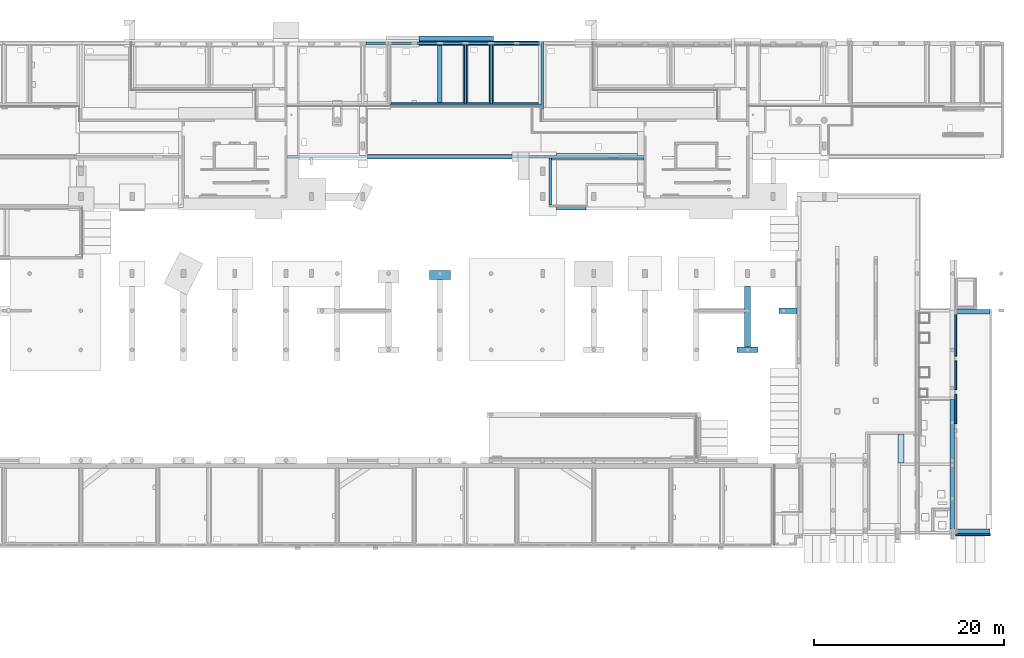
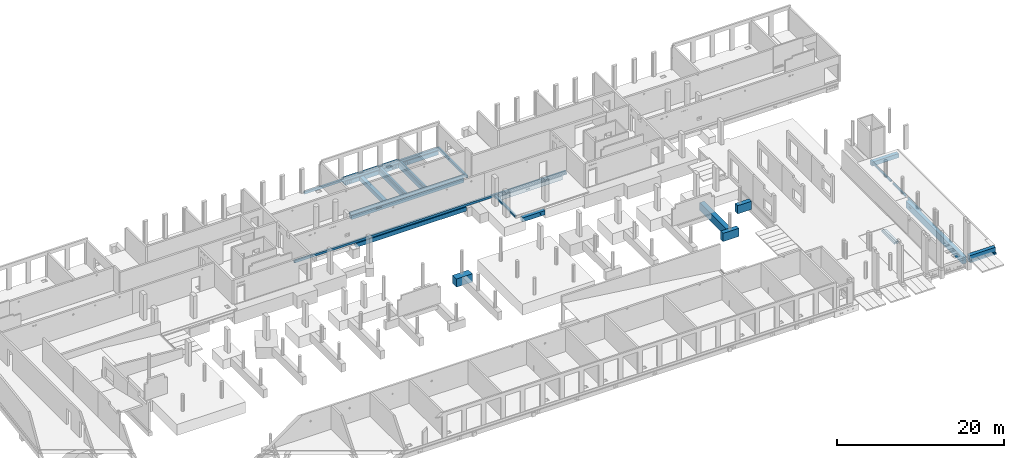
# One storey, part 6 of 60: 29 footings.
"""IFC2X3 building model written with IfcOpenShell, lengths in millimetres."""

import ifcopenshell
import ifcopenshell.guid

model = None  # the IFC model being written
_history = None  # IfcOwnerHistory: only IFC2X3 demands one
_inside = {}  # id of a spatial element -> (the spatial element, [elements in it])
_under = {}  # id of a project, library or spatial element -> (it, [spatial elements below it])
_declared = {}  # id of a project -> (the project, [libraries it declares])
_typed = {}  # id of a type object -> (the type object, [elements of that type])
_made_of = {}  # id of a material, layer set ... -> (it, [elements and type objects made of it])


def new_model(schema):
    """Start an empty IFC model of exactly this schema.

    Asked for "IFC4X3", IfcOpenShell would pick the latest addendum, in which some entities
    have other attributes; the version numbers below select the first issue.
    IFC2X3 requires an IfcOwnerHistory on every rooted entity: one is made here for all.
    """
    global model, _history
    if schema == "IFC4X3":
        model = ifcopenshell.file(schema_version=(4, 3, 0, 0))
    else:
        model = ifcopenshell.file(schema=schema)
    _inside.clear()
    _under.clear()
    _declared.clear()
    _typed.clear()
    _made_of.clear()
    _history = None
    if model.schema == "IFC2X3":
        org = make("IfcOrganization", Name="unknown")
        user = make(
            "IfcPersonAndOrganization",
            ThePerson=make("IfcPerson", FamilyName="unknown"),
            TheOrganization=org,
        )
        app = make(
            "IfcApplication",
            ApplicationDeveloper=org,
            Version="unknown",
            ApplicationFullName="unknown",
            ApplicationIdentifier="unknown",
        )
        _history = make(
            "IfcOwnerHistory",
            OwningUser=user,
            OwningApplication=app,
            ChangeAction="ADDED",
            CreationDate=0,
        )
    return model


def make(cls, **values):
    """One entity of the class cls with the attributes given. An attribute that is None is left unset."""
    return model.create_entity(
        cls, **{name: value for name, value in values.items() if value is not None}
    )


def entity(cls, *values):
    """Any entity or typed value of the class cls, its attributes in the order of the schema. None: left unset."""
    e = model.create_entity(cls)
    for i, value in enumerate(values):
        if value is not None:
            e[i] = value
    return e


def rooted(cls, **values):
    """An entity with a GlobalId (a new one), such as an element, a storey or a relation."""
    return make(cls, GlobalId=ifcopenshell.guid.new(), OwnerHistory=_history, **values)


def si_unit(unit_type, name, prefix=None):
    """IfcSIUnit, for example si_unit("LENGTHUNIT", "METRE", prefix="MILLI")."""
    return make("IfcSIUnit", UnitType=unit_type, Prefix=prefix, Name=name)


def converted_unit(unit_type, name, factor, base, dimensions=None, offset=None):
    """IfcConversionBasedUnit, such as the inch: factor (a typed value) times the base unit."""
    return make(
        "IfcConversionBasedUnit"
        if offset is None
        else "IfcConversionBasedUnitWithOffset",
        ConversionOffset=offset,
        Dimensions=None
        if dimensions is None
        else entity("IfcDimensionalExponents", *dimensions),
        UnitType=unit_type,
        Name=name,
        ConversionFactor=make(
            "IfcMeasureWithUnit", ValueComponent=factor, UnitComponent=base
        ),
    )


def derived_unit(unit_type, elements):
    """IfcDerivedUnit: a product of units, each with its exponent."""
    return make(
        "IfcDerivedUnit",
        Elements=[
            make("IfcDerivedUnitElement", Unit=unit, Exponent=power)
            for unit, power in elements
        ],
        UnitType=unit_type,
    )


def assignment(units):
    """IfcUnitAssignment: the units of a project."""
    return None if units is None else make("IfcUnitAssignment", Units=units)


def point(xyz):
    """IfcCartesianPoint."""
    return None if xyz is None else make("IfcCartesianPoint", Coordinates=xyz)


def direction(xyz):
    """IfcDirection."""
    return None if xyz is None else make("IfcDirection", DirectionRatios=xyz)


def frame(location, z_axis=None, x_axis=None):
    """IfcAxis2Placement3D, a coordinate frame: its origin and axes. An axis left out is left unset."""
    return make(
        "IfcAxis2Placement3D",
        Location=point(location),
        Axis=direction(z_axis),
        RefDirection=direction(x_axis),
    )


def frame_2d(location, x_axis=None):
    """IfcAxis2Placement2D, a coordinate frame in the plane: its origin and x axis."""
    return make(
        "IfcAxis2Placement2D", Location=point(location), RefDirection=direction(x_axis)
    )


def origin():
    """The frame at (0, 0, 0) with its axes left unset."""
    return frame((0.0, 0.0, 0.0))


def origin_2d_with_axis():
    """The frame at (0, 0) in the plane with the x axis (1, 0) written out."""
    return frame_2d((0.0, 0.0), x_axis=(1.0, 0.0))


def place(relative_to, where):
    """IfcLocalPlacement: puts the frame where relative to a parent placement (None: the world)."""
    return make(
        "IfcLocalPlacement", PlacementRelTo=relative_to, RelativePlacement=where
    )


def context(
    kind, dimensions, precision=None, world=None, true_north=None, identifier=None
):
    """IfcGeometricRepresentationContext, for example the 3D "Model" context."""
    return make(
        "IfcGeometricRepresentationContext",
        ContextIdentifier=identifier,
        ContextType=kind,
        CoordinateSpaceDimension=dimensions,
        Precision=precision,
        WorldCoordinateSystem=world,
        TrueNorth=true_north,
    )


def subcontext(parent, identifier, kind, view, scale=None):
    """IfcGeometricRepresentationSubContext, for example "Body" below "Model"."""
    return make(
        "IfcGeometricRepresentationSubContext",
        ContextIdentifier=identifier,
        ContextType=kind,
        ParentContext=parent,
        TargetScale=scale,
        TargetView=view,
    )


def project(units=None, contexts=None):
    """IfcProject with its units and contexts."""
    return rooted(
        "IfcProject",
        Name="project",
        RepresentationContexts=contexts,
        UnitsInContext=assignment(units),
    )


def spatial(cls, under=None, at=None, **own):
    """A site, building, storey or space (cls), placed at a placement, below another one or the project."""
    s = rooted(cls, ObjectPlacement=at, **own)
    if under is not None:
        _under.setdefault(under.id(), (under, []))[1].append(s)
    return s


def polyline(points):
    """IfcPolyline through the points."""
    return make("IfcPolyline", Points=[point(p) for p in points])


def circle_curve(where, radius):
    """IfcCircle in the frame where."""
    return make("IfcCircle", Position=where, Radius=radius)


def parameter(value):
    """IfcParameterValue: where a trimmed curve begins or ends, as a parameter of its basis curve."""
    return model.create_entity("IfcParameterValue", value)


def trimmed(basis, trim1, trim2, sense, master):
    """IfcTrimmedCurve: the piece of a basis curve between two trims."""
    return make(
        "IfcTrimmedCurve",
        BasisCurve=basis,
        Trim1=trim1,
        Trim2=trim2,
        SenseAgreement=sense,
        MasterRepresentation=master,
    )


def segment(curve, same_sense, transition):
    """IfcCompositeCurveSegment."""
    return make(
        "IfcCompositeCurveSegment",
        Transition=transition,
        SameSense=same_sense,
        ParentCurve=curve,
    )


def composite_curve(segments, self_intersect=None):
    """IfcCompositeCurve: segments joined end to end."""
    return make("IfcCompositeCurve", Segments=segments, SelfIntersect=self_intersect)


def profile(cls, at=None, kind="AREA", **sizes):
    """A parametric profile (cls). Its sizes go by their IFC names, for example OverallWidth=200.0."""
    return make(cls, ProfileType=kind, Position=at, **sizes)


def rectangle(**sizes):
    """IfcRectangleProfileDef."""
    return profile("IfcRectangleProfileDef", **sizes)


def outline(outer, holes=None, kind="AREA"):
    """IfcArbitraryClosedProfileDef: a profile drawn as a closed curve; with holes, ...WithVoids."""
    if holes is None:
        return make("IfcArbitraryClosedProfileDef", ProfileType=kind, OuterCurve=outer)
    return make(
        "IfcArbitraryProfileDefWithVoids",
        ProfileType=kind,
        OuterCurve=outer,
        InnerCurves=holes,
    )


def extrude(swept, where, along, depth):
    """IfcExtrudedAreaSolid: the profile swept, set in the frame where, extruded along a direction by depth."""
    return make(
        "IfcExtrudedAreaSolid",
        SweptArea=swept,
        Position=where,
        ExtrudedDirection=direction(along),
        Depth=depth,
    )


def shape(context_of_items, identifier, shape_type, items):
    """IfcShapeRepresentation: the items that make up one representation, for example the "Body"."""
    return make(
        "IfcShapeRepresentation",
        ContextOfItems=context_of_items,
        RepresentationIdentifier=identifier,
        RepresentationType=shape_type,
        Items=items,
    )


def material(Name=None, Category=None):
    """IfcMaterial."""
    return make("IfcMaterial", Name=Name, Category=Category)


def made_of(thing, what):
    """Note that an element or type object is made of a material, layer set ...; save() writes the relation."""
    if what is not None:
        _made_of.setdefault(what.id(), (what, []))[1].append(thing)
    return thing


def element(
    cls,
    number,
    at=None,
    inside=None,
    cuts=None,
    type_object=None,
    material=None,
    context=None,
    identifier="Body",
    shape_type=None,
    held_by="IfcProductDefinitionShape",
    body=None,
    shapes=None,
    **own,
):
    """One element of the class cls, such as IfcWall. Its Tag is "e" and its number.

    at: its placement. inside: the storey or other place that contains it. cuts: it is an
    opening in that element (IfcRelVoidsElement). A single representation is given by context,
    identifier, shape_type and body (its items); several are given by shapes. held_by: the class
    of the entity that holds the representations. save() writes the other relations.
    """
    e = rooted(cls, Tag="e%d" % number, ObjectPlacement=at, **own)
    if body is not None:
        shapes = [shape(context, identifier, shape_type, body)]
    if shapes is not None:
        e.Representation = make(held_by, Representations=shapes)
    if inside is not None:
        _inside.setdefault(inside.id(), (inside, []))[1].append(e)
    if cuts is not None:
        rooted(
            "IfcRelVoidsElement", RelatingBuildingElement=cuts, RelatedOpeningElement=e
        )
    if type_object is not None:
        _typed.setdefault(type_object.id(), (type_object, []))[1].append(e)
    return made_of(e, material)


def aggregate(whole, parts):
    """IfcRelAggregates: a whole, such as a stair, and the parts it consists of."""
    return rooted("IfcRelAggregates", RelatingObject=whole, RelatedObjects=parts)


def save(model, path):
    """Write the relations noted so far, then the file.

    IfcRelAggregates (storeys below a building ...), IfcRelContainedInSpatialStructure (elements
    in a storey), IfcRelDefinesByType, IfcRelAssociatesMaterial and IfcRelDeclares: one each for
    every whole, place, type object, material and project.
    """
    for whole, parts in _under.values():
        aggregate(whole, parts)
    for where, things in _inside.values():
        rooted(
            "IfcRelContainedInSpatialStructure",
            RelatedElements=things,
            RelatingStructure=where,
        )
    for kind, things in _typed.values():
        rooted("IfcRelDefinesByType", RelatedObjects=things, RelatingType=kind)
    for what, things in _made_of.values():
        rooted("IfcRelAssociatesMaterial", RelatedObjects=things, RelatingMaterial=what)
    for by, libraries in _declared.values():
        rooted("IfcRelDeclares", RelatingContext=by, RelatedDefinitions=libraries)
    model.write(path)


model = new_model("IFC2X3")

# Units and contexts
model_context = context("Model", 3, precision=0.01, world=origin(), true_north=direction((6.12303176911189e-17, 1.0)))
body_context = subcontext(model_context, "Body", "Model", "MODEL_VIEW")
ifc_project = project(units=[si_unit("LENGTHUNIT", "METRE", prefix="MILLI"), si_unit("AREAUNIT", "SQUARE_METRE"), si_unit("VOLUMEUNIT", "CUBIC_METRE"), converted_unit("PLANEANGLEUNIT", "DEGREE", entity("IfcRatioMeasure", 0.0174532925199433), si_unit("PLANEANGLEUNIT", "RADIAN"), dimensions=[0, 0, 0, 0, 0, 0, 0]), si_unit("MASSUNIT", "GRAM", prefix="KILO"), derived_unit("MASSDENSITYUNIT", [(si_unit("MASSUNIT", "GRAM", prefix="KILO"), 1), (si_unit("LENGTHUNIT", "METRE"), -3)]), si_unit("TIMEUNIT", "SECOND"), si_unit("FREQUENCYUNIT", "HERTZ"), si_unit("THERMODYNAMICTEMPERATUREUNIT", "DEGREE_CELSIUS"), derived_unit("THERMALTRANSMITTANCEUNIT", [(si_unit("MASSUNIT", "GRAM", prefix="KILO"), 1), (si_unit("THERMODYNAMICTEMPERATUREUNIT", "KELVIN"), -1), (si_unit("TIMEUNIT", "SECOND"), -3)]), derived_unit("VOLUMETRICFLOWRATEUNIT", [(si_unit("LENGTHUNIT", "METRE"), 3), (si_unit("TIMEUNIT", "SECOND"), -1)]), si_unit("ELECTRICCURRENTUNIT", "AMPERE"), si_unit("ELECTRICVOLTAGEUNIT", "VOLT"), si_unit("POWERUNIT", "WATT"), si_unit("FORCEUNIT", "NEWTON", prefix="KILO"), si_unit("ILLUMINANCEUNIT", "LUX"), si_unit("LUMINOUSFLUXUNIT", "LUMEN"), si_unit("LUMINOUSINTENSITYUNIT", "CANDELA"), derived_unit("USERDEFINED", [(si_unit("MASSUNIT", "GRAM", prefix="KILO"), -1), (si_unit("LENGTHUNIT", "METRE"), -2), (si_unit("TIMEUNIT", "SECOND"), 3), (si_unit("LUMINOUSFLUXUNIT", "LUMEN"), 1)]), derived_unit("LINEARVELOCITYUNIT", [(si_unit("LENGTHUNIT", "METRE"), 1), (si_unit("TIMEUNIT", "SECOND"), -1)]), si_unit("PRESSUREUNIT", "PASCAL"), derived_unit("USERDEFINED", [(si_unit("LENGTHUNIT", "METRE"), -2), (si_unit("MASSUNIT", "GRAM", prefix="KILO"), 1), (si_unit("TIMEUNIT", "SECOND"), -2)])], contexts=[model_context])

# Site, building, storey
site_placement = place(None, origin())
site = spatial("IfcSite", under=ifc_project, at=site_placement, Name="Default", CompositionType="ELEMENT")
building_placement = place(site_placement, origin())
building = spatial("IfcBuilding", under=site, at=building_placement, Name="niet gebruiken", CompositionType="ELEMENT")
storey_placement = place(building_placement, origin())
storey = spatial("IfcBuildingStorey", under=building, at=storey_placement, Name="00 begane grond", CompositionType="ELEMENT", Elevation=0.0)

# Footings
ifc_material = material(Name="NLRS_f2_beton ihwg")
footing_1_placement = place(storey_placement, origin())
element("IfcFooting", 1, at=footing_1_placement, inside=storey, material=ifc_material, Name="NLRS_16.12_SF_WPB_funderingsbalk ihwg recht_gen:500x600", ObjectType="NLRS_16.12_SF_WPB_funderingsbalk ihwg recht_gen:500x600", PredefinedType="FOOTING_BEAM", context=body_context, shape_type="SweptSolid", body=[
    extrude(rectangle(XDim=6010.0, YDim=499.999999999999, at=origin_2d_with_axis()), frame((67500.0, 49876.0, -1092.0), z_axis=(0.0, 0.0, 1.0), x_axis=(0.0, 1.0, 0.0)), (0.0, 0.0, 1.0), 599.999999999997),
])
footing_2_placement = place(storey_placement, origin())
element("IfcFooting", 2, at=footing_2_placement, inside=storey, material=ifc_material, Name="NLRS_16.12_SF_WPB_funderingsbalk ihwg recht_gen:500x600", ObjectType="NLRS_16.12_SF_WPB_funderingsbalk ihwg recht_gen:500x600", PredefinedType="FOOTING_BEAM", context=body_context, shape_type="SweptSolid", body=[
    extrude(rectangle(XDim=6010.0, YDim=499.999999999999, at=frame_2d((0.0, 8.65441052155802e-12), x_axis=(1.0, 0.0))), frame((70200.0, 49876.0, -1092.0), z_axis=(0.0, 0.0, 1.0), x_axis=(0.0, 1.0, 0.0)), (0.0, 0.0, 1.0), 599.999999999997),
])
footing_3_placement = place(storey_placement, origin())
element("IfcFooting", 3, at=footing_3_placement, inside=storey, material=ifc_material, Name="NLRS_16.12_SF_WPB_funderingsbalk ihwg recht_gen:500x610", ObjectType="NLRS_16.12_SF_WPB_funderingsbalk ihwg recht_gen:500x610", PredefinedType="FOOTING_BEAM", context=body_context, shape_type="SweptSolid", body=[
    extrude(outline(polyline([(-10100.0, -305.0), (4675.0, -305.0), (5425.0, -305.0), (5425.0, 305.0), (4675.0, 305.0), (-10100.0, 305.0), (-10100.0, -305.0)]), holes=[composite_curve([segment(trimmed(circle_curve(frame_2d((-6600.0010134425, -82.0), x_axis=(1.0, 0.0)), 100.000000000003), [parameter(0.0)], [parameter(179.999999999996)], True, "PARAMETER"), False, "CONTINUOUS"), segment(trimmed(circle_curve(frame_2d((-6600.0010134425, -82.0), x_axis=(-1.0, 0.0)), 100.000000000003), [parameter(0.0)], [parameter(179.999999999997)], True, "PARAMETER"), False, "CONTINUOUS")], self_intersect=False), composite_curve([segment(trimmed(circle_curve(frame_2d((-6300.00053206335, -82.0), x_axis=(1.0, 0.0)), 100.000000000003), [parameter(0.0)], [parameter(179.999999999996)], True, "PARAMETER"), False, "CONTINUOUS"), segment(trimmed(circle_curve(frame_2d((-6300.00053206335, -82.0), x_axis=(-1.0, 0.0)), 100.000000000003), [parameter(0.0)], [parameter(179.999999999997)], True, "PARAMETER"), False, "CONTINUOUS")], self_intersect=False), composite_curve([segment(trimmed(circle_curve(frame_2d((-6000.00050672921, -82.0), x_axis=(1.0, 0.0)), 100.000000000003), [parameter(0.0)], [parameter(179.999999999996)], True, "PARAMETER"), False, "CONTINUOUS"), segment(trimmed(circle_curve(frame_2d((-6000.00050672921, -82.0), x_axis=(-1.0, 0.0)), 100.000000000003), [parameter(0.0)], [parameter(179.999999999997)], True, "PARAMETER"), False, "CONTINUOUS")], self_intersect=False)]), frame((69750.0, 46371.0, -797.0), z_axis=(0.0, 1.0, 0.0), x_axis=(1.0, 0.0, 0.0)), (0.0, 0.0, 1.0), 499.999999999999),
])
footing_4_placement = place(storey_placement, origin())
element("IfcFooting", 4, at=footing_4_placement, inside=storey, material=ifc_material, Name="NLRS_16.12_SF_WPB_funderingsbalk ihwg recht_gen:500x600", ObjectType="NLRS_16.12_SF_WPB_funderingsbalk ihwg recht_gen:500x600", PredefinedType="FOOTING_BEAM", context=body_context, shape_type="SweptSolid", body=[
    extrude(outline(polyline([(-6091.66666666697, -300.0), (-4141.66666666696, -300.0), (-3641.66666666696, -300.0), (-1441.66666666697, -300.0), (-941.666666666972, -300.0), (1258.33333333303, -300.0), (1758.33333333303, -300.0), (6483.33333333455, -300.0), (6758.33333333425, -300.0), (6758.33333333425, 300.0), (6483.33333333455, 300.0), (1758.33333333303, 300.0), (1258.33333333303, 300.0), (-941.666666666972, 300.0), (-1441.66666666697, 300.0), (-3641.66666666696, 300.0), (-4141.66666666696, 300.0), (-6091.66666666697, 300.0), (-6091.66666666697, -300.0)]), holes=[composite_curve([segment(trimmed(circle_curve(frame_2d((-5316.29923466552, 83.0), x_axis=(1.0, 0.0)), 37.5), [parameter(2.03555499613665e-13)], [parameter(180.0)], True, "PARAMETER"), False, "CONTINUOUS"), segment(trimmed(circle_curve(frame_2d((-5316.29923466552, 83.0), x_axis=(1.0, 0.0)), 37.5), [parameter(180.0)], [parameter(359.999999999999)], True, "PARAMETER"), False, "CONTINUOUS")], self_intersect=False), composite_curve([segment(trimmed(circle_curve(frame_2d((-5316.29923466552, -117.0), x_axis=(1.0, 0.0)), 40.0), [parameter(4.07110999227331e-13)], [parameter(180.0)], True, "PARAMETER"), False, "CONTINUOUS"), segment(trimmed(circle_curve(frame_2d((-5316.29923466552, -117.0), x_axis=(1.0, 0.0)), 40.0), [parameter(180.0)], [parameter(360.0)], True, "PARAMETER"), False, "CONTINUOUS")], self_intersect=False), composite_curve([segment(trimmed(circle_curve(frame_2d((-5566.29923466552, 83.0), x_axis=(1.0, 0.0)), 62.5), [parameter(3.56222124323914e-13)], [parameter(180.0)], True, "PARAMETER"), False, "CONTINUOUS"), segment(trimmed(circle_curve(frame_2d((-5566.29923466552, 83.0), x_axis=(1.0, 0.0)), 62.5), [parameter(180.0)], [parameter(360.0)], True, "PARAMETER"), False, "CONTINUOUS")], self_intersect=False), composite_curve([segment(trimmed(circle_curve(frame_2d((-5566.2992346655, -117.0), x_axis=(1.0, 0.0)), 37.5), [parameter(4.07110999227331e-13)], [parameter(180.0)], True, "PARAMETER"), False, "CONTINUOUS"), segment(trimmed(circle_curve(frame_2d((-5566.2992346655, -117.0), x_axis=(1.0, 0.0)), 37.5), [parameter(180.0)], [parameter(360.0)], True, "PARAMETER"), False, "CONTINUOUS")], self_intersect=False), composite_curve([segment(trimmed(circle_curve(frame_2d((-5841.2992346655, -117.0), x_axis=(1.0, 0.0)), 40.0), [parameter(4.07110999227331e-13)], [parameter(180.0)], True, "PARAMETER"), False, "CONTINUOUS"), segment(trimmed(circle_curve(frame_2d((-5841.2992346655, -117.0), x_axis=(1.0, 0.0)), 40.0), [parameter(180.0)], [parameter(360.0)], True, "PARAMETER"), False, "CONTINUOUS")], self_intersect=False), composite_curve([segment(trimmed(circle_curve(frame_2d((-5841.29923466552, 83.0), x_axis=(1.0, 0.0)), 62.5), [parameter(3.56222124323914e-13)], [parameter(180.0)], True, "PARAMETER"), False, "CONTINUOUS"), segment(trimmed(circle_curve(frame_2d((-5841.29923466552, 83.0), x_axis=(1.0, 0.0)), 62.5), [parameter(180.0)], [parameter(360.0)], True, "PARAMETER"), False, "CONTINUOUS")], self_intersect=False), composite_curve([segment(trimmed(circle_curve(frame_2d((2758.33333333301, 83.0), x_axis=(1.0, 0.0)), 37.5), [parameter(4.07110999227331e-13)], [parameter(180.0)], True, "PARAMETER"), False, "CONTINUOUS"), segment(trimmed(circle_curve(frame_2d((2758.33333333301, 83.0), x_axis=(1.0, 0.0)), 37.5), [parameter(180.0)], [parameter(360.0)], True, "PARAMETER"), False, "CONTINUOUS")], self_intersect=False), composite_curve([segment(trimmed(circle_curve(frame_2d((2758.33333333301, -117.0), x_axis=(1.0, 0.0)), 40.0), [parameter(4.07110999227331e-13)], [parameter(180.0)], True, "PARAMETER"), False, "CONTINUOUS"), segment(trimmed(circle_curve(frame_2d((2758.33333333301, -117.0), x_axis=(1.0, 0.0)), 40.0), [parameter(180.0)], [parameter(360.0)], True, "PARAMETER"), False, "CONTINUOUS")], self_intersect=False), composite_curve([segment(trimmed(circle_curve(frame_2d((2508.33333333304, 83.0), x_axis=(1.0, 0.0)), 62.5), [parameter(3.56222124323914e-13)], [parameter(180.0)], True, "PARAMETER"), False, "CONTINUOUS"), segment(trimmed(circle_curve(frame_2d((2508.33333333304, 83.0), x_axis=(1.0, 0.0)), 62.5), [parameter(180.0)], [parameter(360.0)], True, "PARAMETER"), False, "CONTINUOUS")], self_intersect=False), composite_curve([segment(trimmed(circle_curve(frame_2d((2508.33333333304, -117.0), x_axis=(1.0, 0.0)), 37.5), [parameter(4.07110999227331e-13)], [parameter(180.0)], True, "PARAMETER"), False, "CONTINUOUS"), segment(trimmed(circle_curve(frame_2d((2508.33333333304, -117.0), x_axis=(1.0, 0.0)), 37.5), [parameter(180.0)], [parameter(360.0)], True, "PARAMETER"), False, "CONTINUOUS")], self_intersect=False), composite_curve([segment(trimmed(circle_curve(frame_2d((2233.33333333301, 83.0), x_axis=(1.0, 0.0)), 62.5), [parameter(3.56222124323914e-13)], [parameter(180.0)], True, "PARAMETER"), False, "CONTINUOUS"), segment(trimmed(circle_curve(frame_2d((2233.33333333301, 83.0), x_axis=(1.0, 0.0)), 62.5), [parameter(180.0)], [parameter(360.0)], True, "PARAMETER"), False, "CONTINUOUS")], self_intersect=False), composite_curve([segment(trimmed(circle_curve(frame_2d((2233.33333333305, -117.0), x_axis=(1.0, 0.0)), 40.0), [parameter(4.07110999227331e-13)], [parameter(180.0)], True, "PARAMETER"), False, "CONTINUOUS"), segment(trimmed(circle_curve(frame_2d((2233.33333333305, -117.0), x_axis=(1.0, 0.0)), 40.0), [parameter(180.0)], [parameter(360.0)], True, "PARAMETER"), False, "CONTINUOUS")], self_intersect=False), composite_curve([segment(trimmed(circle_curve(frame_2d((473.333333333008, 83.0), x_axis=(1.0, 0.0)), 62.5), [parameter(3.56222124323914e-13)], [parameter(180.0)], True, "PARAMETER"), False, "CONTINUOUS"), segment(trimmed(circle_curve(frame_2d((473.333333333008, 83.0), x_axis=(1.0, 0.0)), 62.5), [parameter(180.0)], [parameter(360.0)], True, "PARAMETER"), False, "CONTINUOUS")], self_intersect=False), composite_curve([segment(trimmed(circle_curve(frame_2d((748.333333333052, 83.0), x_axis=(1.0, 0.0)), 62.5), [parameter(2.54444374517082e-13)], [parameter(180.0)], True, "PARAMETER"), False, "CONTINUOUS"), segment(trimmed(circle_curve(frame_2d((748.333333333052, 83.0), x_axis=(1.0, 0.0)), 62.5), [parameter(180.0)], [parameter(359.999999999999)], True, "PARAMETER"), False, "CONTINUOUS")], self_intersect=False), composite_curve([segment(trimmed(circle_curve(frame_2d((998.333333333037, 83.0), x_axis=(1.0, 0.0)), 37.5), [parameter(4.07110999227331e-13)], [parameter(180.0)], True, "PARAMETER"), False, "CONTINUOUS"), segment(trimmed(circle_curve(frame_2d((998.333333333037, 83.0), x_axis=(1.0, 0.0)), 37.5), [parameter(180.0)], [parameter(360.0)], True, "PARAMETER"), False, "CONTINUOUS")], self_intersect=False), composite_curve([segment(trimmed(circle_curve(frame_2d((998.333333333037, -117.0), x_axis=(1.0, 0.0)), 40.0), [parameter(4.07110999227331e-13)], [parameter(180.0)], True, "PARAMETER"), False, "CONTINUOUS"), segment(trimmed(circle_curve(frame_2d((998.333333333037, -117.0), x_axis=(1.0, 0.0)), 40.0), [parameter(180.0)], [parameter(360.0)], True, "PARAMETER"), False, "CONTINUOUS")], self_intersect=False), composite_curve([segment(trimmed(circle_curve(frame_2d((748.333333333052, -117.0), x_axis=(1.0, 0.0)), 37.5), [parameter(4.07110999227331e-13)], [parameter(180.0)], True, "PARAMETER"), False, "CONTINUOUS"), segment(trimmed(circle_curve(frame_2d((748.333333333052, -117.0), x_axis=(1.0, 0.0)), 37.5), [parameter(180.0)], [parameter(360.0)], True, "PARAMETER"), False, "CONTINUOUS")], self_intersect=False), composite_curve([segment(trimmed(circle_curve(frame_2d((473.333333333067, -117.0), x_axis=(1.0, 0.0)), 40.0), [parameter(5.5977762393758e-13)], [parameter(180.0)], True, "PARAMETER"), False, "CONTINUOUS"), segment(trimmed(circle_curve(frame_2d((473.333333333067, -117.0), x_axis=(1.0, 0.0)), 40.0), [parameter(180.0)], [parameter(360.0)], True, "PARAMETER"), False, "CONTINUOUS")], self_intersect=False)]), frame((68691.6666666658, 52881.0, -792.0), z_axis=(0.0, 1.0, 0.0), x_axis=(1.0, 0.0, 0.0)), (0.0, 0.0, 1.0), 499.999999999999),
])
footing_5_placement = place(storey_placement, origin())
element("IfcFooting", 5, at=footing_5_placement, inside=storey, material=ifc_material, Name="NLRS_16.12_SF_WPB_opstort ihwg recht_gen:250x390", ObjectType="NLRS_16.12_SF_WPB_opstort ihwg recht_gen:250x390", PredefinedType="FOOTING_BEAM", context=body_context, shape_type="SweptSolid", body=[
    extrude(rectangle(XDim=6259.99999999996, YDim=250.000000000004, at=frame_2d((0.0, -4.33431068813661e-12), x_axis=(1.0, 0.0))), frame((67500.0, 49876.0, -492.0), z_axis=(0.0, 0.0, 1.0), x_axis=(0.0, 1.0, 0.0)), (0.0, 0.0, 1.0), 332.0),
])
footing_6_placement = place(storey_placement, origin())
element("IfcFooting", 6, at=footing_6_placement, inside=storey, material=ifc_material, Name="NLRS_16.12_SF_WPB_opstort ihwg recht_gen:250x390", ObjectType="NLRS_16.12_SF_WPB_opstort ihwg recht_gen:250x390", PredefinedType="FOOTING_BEAM", context=body_context, shape_type="SweptSolid", body=[
    extrude(rectangle(XDim=6259.99999999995, YDim=249.999999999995, at=origin_2d_with_axis()), frame((70200.0, 49876.0, -492.0), z_axis=(0.0, 0.0, 1.0), x_axis=(0.0, 1.0, 0.0)), (0.0, 0.0, 1.0), 332.0),
])
footing_7_placement = place(storey_placement, origin())
element("IfcFooting", 7, at=footing_7_placement, inside=storey, material=ifc_material, Name="NLRS_16.12_SF_WPB_opstort ihwg recht_gen:250x332", ObjectType="NLRS_16.12_SF_WPB_opstort ihwg recht_gen:250x332", PredefinedType="FOOTING_BEAM", context=body_context, shape_type="SweptSolid", body=[
    extrude(rectangle(XDim=37549.9999999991, YDim=250.000000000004, at=frame_2d((5962.5000000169, 20.8333333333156), x_axis=(1.0, 0.0))), frame((61537.4999999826, 41165.1666666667, -402.0)), (0.0, 0.0, 1.0), 331.999999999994),
])
footing_8_placement = place(storey_placement, origin())
element("IfcFooting", 8, at=footing_8_placement, inside=storey, material=ifc_material, Name="NLRS_16.12_SF_WPB_opstort ihwg recht_gen:250x332", ObjectType="NLRS_16.12_SF_WPB_opstort ihwg recht_gen:250x332", PredefinedType="FOOTING_BEAM", context=body_context, shape_type="SweptSolid", body=[
    extrude(rectangle(XDim=15925.0000000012, YDim=250.000000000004, at=frame_2d((-681.249999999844, -62.500000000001), x_axis=(1.0, 0.0))), frame((68168.7499999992, 46683.5, -492.0)), (0.0, 0.0, 1.0), 331.999999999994),
])
footing_9_placement = place(storey_placement, origin())
element("IfcFooting", 9, at=footing_9_placement, inside=storey, material=ifc_material, Name="NLRS_16.12_SF_WPB_opstort ihwg recht_gen:250x332", ObjectType="NLRS_16.12_SF_WPB_opstort ihwg recht_gen:250x332", PredefinedType="FOOTING_BEAM", context=body_context, shape_type="SweptSolid", body=[
    extrude(outline(polyline([(-4103.75000000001, -62.4999999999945), (-3978.75000000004, -62.4999999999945), (2156.24999999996, -62.4999999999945), (2406.24999999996, -62.4999999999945), (2531.24999999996, -62.4999999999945), (2671.25000000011, -62.4999999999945), (2671.25000000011, 187.500000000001), (-4353.75000000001, 187.500000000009), (-4103.75000000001, -62.4999999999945)])), frame((75512.5000000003, 48902.2499999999, -492.0), z_axis=(0.0, 0.0, 1.0), x_axis=(0.0, -1.0, 0.0)), (0.0, 0.0, 1.0), 331.999999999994),
])
footing_10_placement = place(storey_placement, origin())
element("IfcFooting", 10, at=footing_10_placement, inside=storey, material=ifc_material, Name="NLRS_16.12_SF_WPB_funderingsbalk ihwg recht_gen:500x600", ObjectType="NLRS_16.12_SF_WPB_funderingsbalk ihwg recht_gen:500x600", PredefinedType="FOOTING_BEAM", context=body_context, shape_type="SweptSolid", body=[
    extrude(rectangle(XDim=15225.0000000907, YDim=499.999999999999, at=frame_2d((4.54747350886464e-12, 4.33431068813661e-12), x_axis=(1.0, 0.0))), frame((64787.4999999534, 41186.0, -1002.0)), (0.0, 0.0, 1.0), 599.999999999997),
])
footing_11_placement = place(storey_placement, origin())
element("IfcFooting", 11, at=footing_11_placement, inside=storey, material=ifc_material, Name="NLRS_16.12_SF_WPB_funderingsbalk ihwg recht_gen:930x1200", ObjectType="NLRS_16.12_SF_WPB_funderingsbalk ihwg recht_gen:930x1200", PredefinedType="FOOTING_BEAM", context=body_context, shape_type="SweptSolid", body=[
    extrude(rectangle(XDim=2199.99999999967, YDim=930.000000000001, at=frame_2d((-5.28643795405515e-11, 155.000000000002), x_axis=(1.0, 0.0))), frame((64800.0, 28561.0, -1400.0)), (0.0, 0.0, 1.0), 1200.0),
])
footing_12_placement = place(storey_placement, origin())
element("IfcFooting", 12, at=footing_12_placement, inside=storey, material=ifc_material, Name="NLRS_16.12_SF_WPB_funderingsbalk ihwg recht_gen:600x1200", ObjectType="NLRS_16.12_SF_WPB_funderingsbalk ihwg recht_gen:600x1200", PredefinedType="FOOTING_BEAM", context=body_context, shape_type="SweptSolid", body=[
    extrude(rectangle(XDim=6384.99999999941, YDim=600.000000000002, at=frame_2d((-2.04636307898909e-12, 8.66862137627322e-12), x_axis=(1.0, 0.0))), frame((97200.0, 24338.5000000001, -1400.0), z_axis=(0.0, 0.0, 1.0), x_axis=(0.0, -1.0, 0.0)), (0.0, 0.0, 1.0), 1200.0),
])
footing_13_placement = place(storey_placement, origin())
element("IfcFooting", 13, at=footing_13_placement, inside=storey, material=ifc_material, Name="NLRS_16.12_SF_WPB_funderingsbalk ihwg recht_gen:600x1200", ObjectType="NLRS_16.12_SF_WPB_funderingsbalk ihwg recht_gen:600x1200", PredefinedType="FOOTING_BEAM", context=body_context, shape_type="SweptSolid", body=[
    extrude(rectangle(XDim=2199.99999999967, YDim=600.000000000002, at=frame_2d((5.2409632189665e-11, -99.9999999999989), x_axis=(1.0, 0.0))), frame((97200.0, 20946.0, -1400.0)), (0.0, 0.0, 1.0), 1200.0),
])
footing_14_placement = place(storey_placement, origin())
element("IfcFooting", 14, at=footing_14_placement, inside=storey, material=ifc_material, Name="NLRS_16.12_SF_WPB_funderingsbalk ihwg recht_gen:600x1200", ObjectType="NLRS_16.12_SF_WPB_funderingsbalk ihwg recht_gen:600x1200", PredefinedType="FOOTING_BEAM", context=body_context, shape_type="SweptSolid", body=[
    extrude(rectangle(XDim=1909.99999999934, YDim=600.000000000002, at=frame_2d((8.64019966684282e-12, -2.1600499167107e-12), x_axis=(1.0, 0.0))), frame((101445.0, 24976.0, -1400.0)), (0.0, 0.0, 1.0), 1200.0),
])
footing_15_placement = place(storey_placement, origin())
element("IfcFooting", 15, at=footing_15_placement, inside=storey, material=ifc_material, Name="NLRS_16.12_SF_WPB_funderingsbalk ihwg recht_gen:500x600", ObjectType="NLRS_16.12_SF_WPB_funderingsbalk ihwg recht_gen:500x600", PredefinedType="FOOTING_BEAM", context=body_context, shape_type="SweptSolid", body=[
    extrude(outline(polyline([(-1562.49999999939, -300.0), (1562.49999999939, -300.0), (1562.49999999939, 300.0), (-1562.49999999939, 300.0), (-1562.49999999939, -300.0)]), holes=[composite_curve([segment(trimmed(circle_curve(frame_2d((-912.502553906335, 22.0), x_axis=(-1.0, 0.0)), 80.0000000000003), [parameter(0.0)], [parameter(180.0)], True, "PARAMETER"), False, "CONTINUOUS"), segment(trimmed(circle_curve(frame_2d((-912.502553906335, 22.0), x_axis=(1.0, 0.0)), 79.9999999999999), [parameter(0.0)], [parameter(180.000000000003)], True, "PARAMETER"), False, "CONTINUOUS")], self_intersect=False)]), frame((78637.4999999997, 35581.0, -702.0), z_axis=(0.0, 1.0, 0.0), x_axis=(-1.0, 0.0, 0.0)), (0.0, 0.0, 1.0), 500.000000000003),
])
footing_16_placement = place(storey_placement, origin())
element("IfcFooting", 16, at=footing_16_placement, inside=storey, material=ifc_material, Name="NLRS_16.12_SF_WPB_opstort ihwg recht_gen:250x332", ObjectType="NLRS_16.12_SF_WPB_opstort ihwg recht_gen:250x332", PredefinedType="FOOTING_BEAM", context=body_context, shape_type="SweptSolid", body=[
    extrude(outline(polyline([(-8927.0, -50.0), (-6662.0, -50.0), (-6412.0, -50.0), (1438.0, -50.0), (1688.0, -50.0), (4138.0, -50.0), (4388.0, -50.0), (9513.0, -50.0), (9763.0, 200.0), (-8927.0, 200.0), (-8927.0, -50.0)])), frame((65937.0, 53056.0, -492.0)), (0.0, 0.0, 1.0), 331.999999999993),
])
footing_17_placement = place(storey_placement, origin())
element("IfcFooting", 17, at=footing_17_placement, inside=storey, material=ifc_material, Name="NLRS_16.12_SF_WPB_funderingsbalk ihwg recht_gen:500x600", ObjectType="NLRS_16.12_SF_WPB_funderingsbalk ihwg recht_gen:500x600", PredefinedType="FOOTING_BEAM", context=body_context, shape_type="SweptSolid", body=[
    extrude(rectangle(XDim=3710.00000000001, YDim=499.999999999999, at=frame_2d((8.75388650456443e-12, 0.0), x_axis=(1.0, 0.0))), frame((120875.0, 24851.0, -900.0)), (0.0, 0.0, 1.0), 599.999999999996),
])
footing_18_placement = place(storey_placement, origin())
element("IfcFooting", 18, at=footing_18_placement, inside=storey, material=ifc_material, Name="NLRS_16.12_SF_WPB_funderingsbalk ihwg recht_gen:500x1000", ObjectType="NLRS_16.12_SF_WPB_funderingsbalk ihwg recht_gen:500x1000", PredefinedType="FOOTING_BEAM", context=body_context, shape_type="SweptSolid", body=[
    extrude(outline(polyline([(-8405.33333333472, -500.0), (-1705.33333333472, -500.0), (-1455.33333333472, -500.0), (3062.66666666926, -500.0), (3262.66666666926, -500.0), (5240.66666666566, -500.0), (5240.66666666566, 500.0), (3262.66666666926, 500.0), (3062.66666666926, 500.0), (-1455.33333333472, 500.0), (-1705.33333333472, 500.0), (-8405.33333333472, 500.0), (-8405.33333333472, -500.0)]), holes=[composite_curve([segment(trimmed(circle_curve(frame_2d((-7565.33333333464, -90.0), x_axis=(-1.0, 0.0)), 80.0), [parameter(180.0)], [parameter(360.0)], True, "PARAMETER"), False, "CONTINUOUS"), segment(trimmed(circle_curve(frame_2d((-7565.33333333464, -90.0), x_axis=(-1.0, 0.0)), 80.0), [parameter(4.07110999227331e-13)], [parameter(180.0)], True, "PARAMETER"), False, "CONTINUOUS")], self_intersect=False), composite_curve([segment(trimmed(circle_curve(frame_2d((-7265.33333333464, -90.0), x_axis=(-1.0, 0.0)), 80.0), [parameter(180.0)], [parameter(360.0)], True, "PARAMETER"), False, "CONTINUOUS"), segment(trimmed(circle_curve(frame_2d((-7265.33333333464, -90.0), x_axis=(-1.0, 0.0)), 80.0), [parameter(4.07110999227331e-13)], [parameter(180.0)], True, "PARAMETER"), False, "CONTINUOUS")], self_intersect=False)]), frame((118500.0, 7240.66666666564, -800.0), z_axis=(1.0, 0.0, 0.0), x_axis=(0.0, -1.0, 0.0)), (0.0, 0.0, 1.0), 499.99999999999),
])
footing_19_placement = place(storey_placement, origin())
element("IfcFooting", 19, at=footing_19_placement, inside=storey, material=ifc_material, Name="NLRS_16.12_SF_WPB_funderingsbalk ihwg recht_gen:250x600", ObjectType="NLRS_16.12_SF_WPB_funderingsbalk ihwg recht_gen:250x600", PredefinedType="FOOTING_BEAM", context=body_context, shape_type="SweptSolid", body=[
    extrude(rectangle(XDim=3025.00000000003, YDim=600.000000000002, at=frame_2d((-5.6843418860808e-13, -8.66862137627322e-12), x_axis=(1.0, 0.0))), frame((113350.000370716, 10458.5000000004, -700.0), z_axis=(0.0, 0.0, 1.0), x_axis=(0.0, 1.0, 0.0)), (0.0, 0.0, 1.0), 249.683439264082),
])
footing_20_placement = place(storey_placement, origin())
element("IfcFooting", 20, at=footing_20_placement, inside=storey, material=ifc_material, Name="NLRS_16.12_SF_WPB_opstort ihwg recht_gen:250x332", ObjectType="NLRS_16.12_SF_WPB_opstort ihwg recht_gen:250x332", PredefinedType="FOOTING_BEAM", context=body_context, shape_type="SweptSolid", body=[
    extrude(rectangle(XDim=4980.00000000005, YDim=250.000000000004, at=frame_2d((-453.000000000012, 25.0000000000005), x_axis=(1.0, 0.0))), frame((76450.0, 39024.0, -402.0), z_axis=(0.0, 0.0, 1.0), x_axis=(0.0, 1.0, 0.0)), (0.0, 0.0, 1.0), 331.999999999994),
])
footing_21_placement = place(storey_placement, origin())
element("IfcFooting", 21, at=footing_21_placement, inside=storey, material=ifc_material, Name="NLRS_16.12_SF_WPB_opstort ihwg recht_gen:225x132", ObjectType="NLRS_16.12_SF_WPB_opstort ihwg recht_gen:225x132", PredefinedType="FOOTING_BEAM", context=body_context, shape_type="SweptSolid", body=[
    extrude(rectangle(XDim=9724.99999999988, YDim=225.000000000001, at=frame_2d((24.9999999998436, 37.4999999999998), x_axis=(1.0, 0.0))), frame((81387.4999999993, 40911.0, -402.0)), (0.0, 0.0, 1.0), 131.999999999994),
])
footing_22_placement = place(storey_placement, origin())
element("IfcFooting", 22, at=footing_22_placement, inside=storey, material=ifc_material, Name="NLRS_16.12_SF_WPB_funderingsbalk ihwg recht_gen:700x600", ObjectType="NLRS_16.12_SF_WPB_funderingsbalk ihwg recht_gen:700x600", PredefinedType="FOOTING_BEAM", context=body_context, shape_type="SweptSolid", body=[
    extrude(outline(polyline([(-4262.4999999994, -300.0), (4262.49999999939, -300.0), (4262.49999999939, 300.0), (-4262.4999999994, 300.0), (-4262.4999999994, -300.0)]), holes=[composite_curve([segment(trimmed(circle_curve(frame_2d((-3037.49847981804, 43.0), x_axis=(1.0, 0.0)), 62.499999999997), [parameter(0.0)], [parameter(180.000000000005)], True, "PARAMETER"), False, "CONTINUOUS"), segment(trimmed(circle_curve(frame_2d((-3037.49847981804, 43.0), x_axis=(-1.0, 0.0)), 62.499999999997), [parameter(0.0)], [parameter(180.000000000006)], True, "PARAMETER"), False, "CONTINUOUS")], self_intersect=False), composite_curve([segment(trimmed(circle_curve(frame_2d((-337.498479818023, -22.0), x_axis=(1.0, 0.0)), 80.0000000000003), [parameter(0.0)], [parameter(180.0)], True, "PARAMETER"), False, "CONTINUOUS"), segment(trimmed(circle_curve(frame_2d((-337.498479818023, -22.0), x_axis=(-1.0, 0.0)), 79.9999999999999), [parameter(0.0)], [parameter(180.000000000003)], True, "PARAMETER"), False, "CONTINUOUS")], self_intersect=False), composite_curve([segment(trimmed(circle_curve(frame_2d((-637.496984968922, -22.0), x_axis=(1.0, 0.0)), 62.4999999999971), [parameter(0.0)], [parameter(180.000000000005)], True, "PARAMETER"), False, "CONTINUOUS"), segment(trimmed(circle_curve(frame_2d((-637.496984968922, -22.0), x_axis=(-1.0, 0.0)), 62.499999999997), [parameter(0.0)], [parameter(180.000000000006)], True, "PARAMETER"), False, "CONTINUOUS")], self_intersect=False)]), frame((81337.4999999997, 40836.0, -702.0), z_axis=(0.0, 1.0, 0.0), x_axis=(1.0, 0.0, 0.0)), (0.0, 0.0, 1.0), 699.999999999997),
])
footing_23_placement = place(storey_placement, origin())
element("IfcFooting", 23, at=footing_23_placement, inside=storey, material=ifc_material, Name="NLRS_16.12_SF_WPB_funderingsbalk ihwg recht_gen:200x200", ObjectType="NLRS_16.12_SF_WPB_funderingsbalk ihwg recht_gen:200x200", PredefinedType="FOOTING_BEAM", context=body_context, shape_type="SweptSolid", body=[
    extrude(rectangle(XDim=4400.14337603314, YDim=200.000000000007, at=origin_2d_with_axis()), frame((119100.0, 22401.0716880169, -505.0), z_axis=(0.0, 0.0, 1.0), x_axis=(0.0, 1.0, 0.0)), (0.0, 0.0, 1.0), 199.999999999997),
])
footing_24_placement = place(storey_placement, origin())
element("IfcFooting", 24, at=footing_24_placement, inside=storey, material=ifc_material, Name="NLRS_16.12_SF_WPB_funderingsbalk ihwg recht_gen:200x200", ObjectType="NLRS_16.12_SF_WPB_funderingsbalk ihwg recht_gen:200x200", PredefinedType="FOOTING_BEAM", context=body_context, shape_type="SweptSolid", body=[
    extrude(rectangle(XDim=3050.0, YDim=200.000000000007, at=origin_2d_with_axis()), frame((119100.0, 18176.0, -505.0), z_axis=(0.0, 0.0, 1.0), x_axis=(0.0, 1.0, 0.0)), (0.0, 0.0, 1.0), 199.999999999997),
])
footing_25_placement = place(storey_placement, origin())
element("IfcFooting", 25, at=footing_25_placement, inside=storey, material=ifc_material, Name="NLRS_16.12_SF_WPB_funderingsbalk ihwg recht_gen:200x200", ObjectType="NLRS_16.12_SF_WPB_funderingsbalk ihwg recht_gen:200x200", PredefinedType="FOOTING_BEAM", context=body_context, shape_type="SweptSolid", body=[
    extrude(rectangle(XDim=3100.0, YDim=200.000000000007, at=frame_2d((-2.1600499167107e-12, 0.0), x_axis=(1.0, 0.0))), frame((119100.0, 14601.0, -505.0), z_axis=(0.0, 0.0, 1.0), x_axis=(0.0, 1.0, 0.0)), (0.0, 0.0, 1.0), 199.999999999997),
])
footing_26_placement = place(storey_placement, origin())
element("IfcFooting", 26, at=footing_26_placement, inside=storey, material=ifc_material, Name="NLRS_16.12_SF_WPB_funderingsbalk ihwg recht_gen:500x900", ObjectType="NLRS_16.12_SF_WPB_funderingsbalk ihwg recht_gen:500x900", PredefinedType="FOOTING_BEAM", context=body_context, shape_type="SweptSolid", body=[
    extrude(rectangle(XDim=3610.00000000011, YDim=500.0, at=origin_2d_with_axis()), frame((120925.0, 1750.0, -900.0)), (0.0, 0.0, 1.0), 899.999999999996),
])
footing_27_placement = place(storey_placement, origin())
element("IfcFooting", 27, at=footing_27_placement, inside=storey, material=ifc_material, Name="NLRS_16.12_SF_WPB_funderingsbalk ihwg recht_gen:200x250", ObjectType="NLRS_16.12_SF_WPB_funderingsbalk ihwg recht_gen:200x250", PredefinedType="FOOTING_BEAM", context=body_context, shape_type="SweptSolid", body=[
    extrude(rectangle(XDim=3610.00000000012, YDim=200.0, at=origin_2d_with_axis()), frame((120925.0, 1400.0, -900.0)), (0.0, 0.0, 1.0), 249.999999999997),
])
footing_28_placement = place(storey_placement, origin())
element("IfcFooting", 28, at=footing_28_placement, inside=storey, material=ifc_material, Name="NLRS_16.12_SF_WPB_funderingsbalk ihwg recht_gen:500x600", ObjectType="NLRS_16.12_SF_WPB_funderingsbalk ihwg recht_gen:500x600", PredefinedType="FOOTING_BEAM", context=body_context, shape_type="SweptSolid", body=[
    extrude(rectangle(XDim=7849.99999999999, YDim=499.999999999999, at=origin_2d_with_axis()), frame((66525.0, 53631.0, -1092.0)), (0.0, 0.0, 1.0), 599.999999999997),
])
footing_29_placement = place(storey_placement, origin())
element("IfcFooting", 29, at=footing_29_placement, inside=storey, material=ifc_material, Name="NLRS_16.12_SF_WPB_funderingsbalk ihwg recht_gen:500x600", ObjectType="NLRS_16.12_SF_WPB_funderingsbalk ihwg recht_gen:500x600", PredefinedType="FOOTING_BEAM", context=body_context, shape_type="SweptSolid", body=[
    extrude(rectangle(XDim=6010.0, YDim=499.999999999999, at=frame_2d((0.0, -8.65441052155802e-12), x_axis=(1.0, 0.0))), frame((64800.0, 49876.0, -1092.0), z_axis=(0.0, 0.0, 1.0), x_axis=(0.0, 1.0, 0.0)), (0.0, 0.0, 1.0), 599.999999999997),
])

save(model, "model.ifc")
